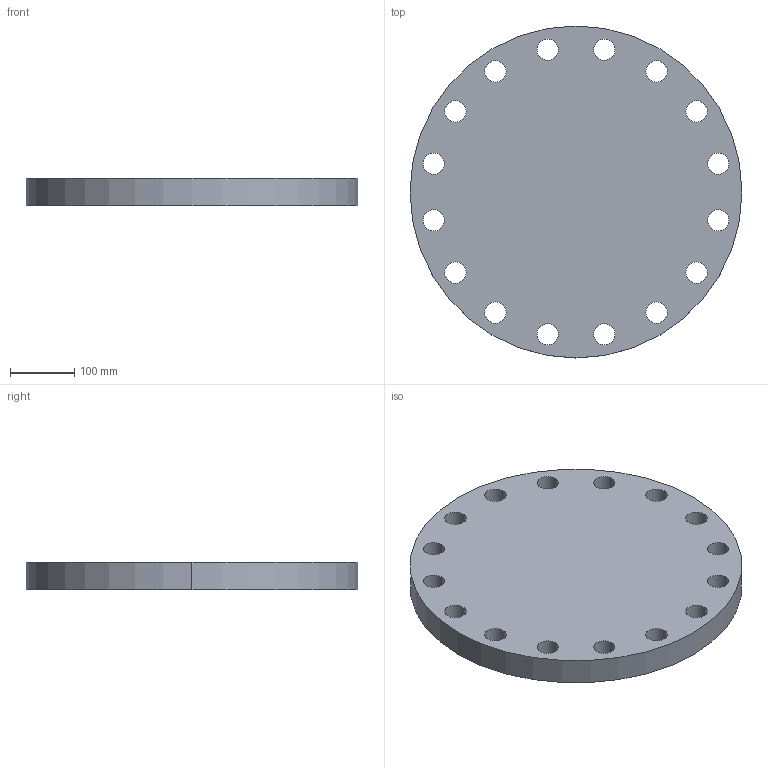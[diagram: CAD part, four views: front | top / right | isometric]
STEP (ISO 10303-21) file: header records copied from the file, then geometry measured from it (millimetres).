
FILE_DESCRIPTION (( 'STEP AP214' ), '1' );
FILE_NAME ('PN40 DN300 Type 05 - Type A Face.STEP', '2019-01-05T20:27:59', ( '' ), ( '' ), 'SwSTEP 2.0', 'SolidWorks 2019', '' );
FILE_SCHEMA (( 'AUTOMOTIVE_DESIGN' ));
Length unit declared in the file: millimetre
Products named in the file (1): PN40 DN300 Type 05 - Type A Face
Bounding box: 515 x 515 x 42 mm (x, y, z)
Volume: 8174142.9 mm3; surface area: 526865.5 mm2
Topology: 1 solids, 1 shells, 36 faces, 102 edges, 68 vertices
Faces by surface type: cylinder 34, plane 2
Entity records: 1312 total; most frequent: DIRECTION 244, CARTESIAN_POINT 207, ORIENTED_EDGE 204, AXIS2_PLACEMENT_3D 105, EDGE_CURVE 102, CIRCLE 68, VERTEX_POINT 68, EDGE_LOOP 68
